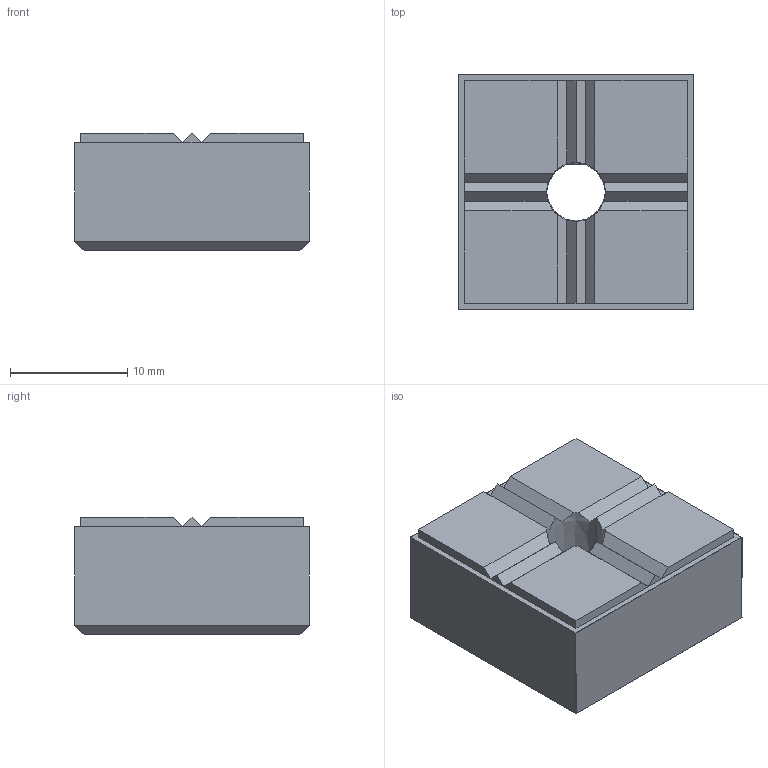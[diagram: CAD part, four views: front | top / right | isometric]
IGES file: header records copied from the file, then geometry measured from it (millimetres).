
Start section: SolidWorks IGES FILE using analytic representation for surfaces
Global section: file name: C:\WIX2\Positioning\3546\3546W005.igs; native system: SolidWorks 2003 by SolidWorks Corporation; preprocessor: Version 5.3; author: Joan; date: 030722.143905; units: millimetre
Bounding box: 20 x 20 x 10 mm (x, y, z)
Surface area: 1703.5 mm2 (no closed solid volume)
Topology: 0 solids, 0 shells, 44 faces, 270 edges, 270 vertices
Faces by surface type: bspline 42, revolution 2
